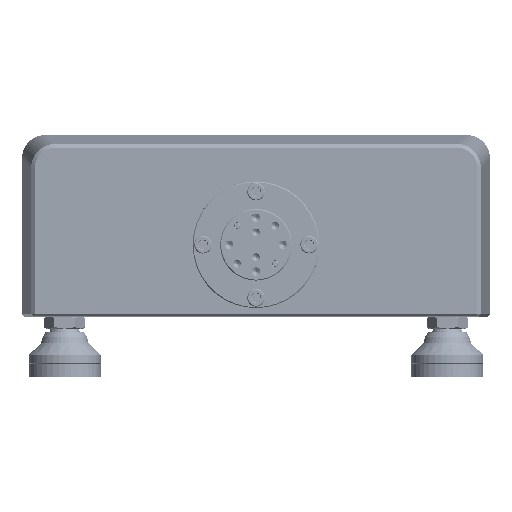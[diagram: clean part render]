
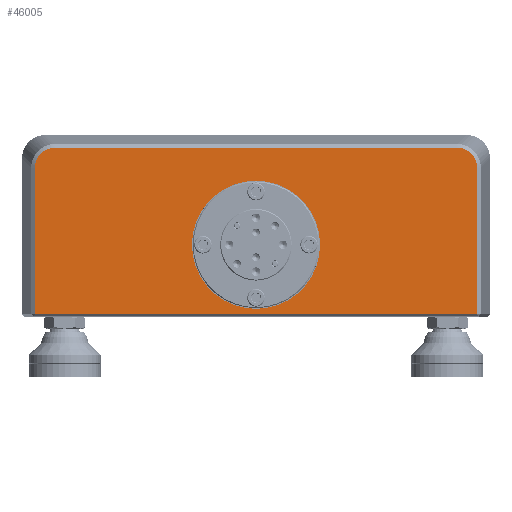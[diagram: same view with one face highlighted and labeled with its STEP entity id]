
A CAD part, top view. The second image highlights one B-rep face of the part: STEP entity #46005.
In plain terms, the highlighted planar face has unit normal (0, 0, 1).
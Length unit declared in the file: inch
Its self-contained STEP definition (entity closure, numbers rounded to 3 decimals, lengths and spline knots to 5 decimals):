
#4503 = DIRECTION ( 'NONE',  ( 0., 0., 1. ) ) ;
#8013 = AXIS2_PLACEMENT_3D ( 'NONE', #221229, #202075, #22135 ) ;
#8677 = CARTESIAN_POINT ( 'NONE',  ( -2.77428, 0.11393, 9.26704 ) ) ;
#10829 = LINE ( 'NONE', #166773, #252271 ) ;
#12137 = CARTESIAN_POINT ( 'NONE',  ( -2.73256, 1.76878, 9.26704 ) ) ;
#12933 = CARTESIAN_POINT ( 'NONE',  ( 1.69644, 1.84357, 9.26704 ) ) ;
#13464 = EDGE_CURVE ( 'NONE', #25158, #15360, #41448, .T. ) ;
#15360 = VERTEX_POINT ( 'NONE', #81554 ) ;
#22135 = DIRECTION ( 'NONE',  ( -1., 0., 0. ) ) ;
#25158 = VERTEX_POINT ( 'NONE', #8677 ) ;
#26617 = ORIENTED_EDGE ( 'NONE', *, *, #144471, .T. ) ;
#27305 = DIRECTION ( 'NONE',  ( 1., 0., 0. ) ) ;
#29463 = VERTEX_POINT ( 'NONE', #31998 ) ;
#29752 = DIRECTION ( 'NONE',  ( 0., 1., 0. ) ) ;
#31998 = CARTESIAN_POINT ( 'NONE',  ( 1.85037, 1.64008, 9.26704 ) ) ;
#32144 = CARTESIAN_POINT ( 'NONE',  ( -2.77428, 1.64008, 9.26704 ) ) ;
#32560 = CARTESIAN_POINT ( 'NONE',  ( -2.76885, 1.69507, 9.26704 ) ) ;
#32874 = LINE ( 'NONE', #229505, #82377 ) ;
#37849 = VERTEX_POINT ( 'NONE', #134392 ) ;
#41448 = LINE ( 'NONE', #120835, #95026 ) ;
#43694 = CARTESIAN_POINT ( 'NONE',  ( 1.82414, 1.74555, 9.26704 ) ) ;
#46005 = ADVANCED_FACE ( 'NONE', ( #230353, #232793 ), #54173, .F. ) ;
#46467 = CARTESIAN_POINT ( 'NONE',  ( -0.46195, 0.83393, 9.26704 ) ) ;
#46709 = CARTESIAN_POINT ( 'NONE',  ( -2.77428, 1.66763, 9.26704 ) ) ;
#48962 = EDGE_CURVE ( 'NONE', #204893, #25158, #32874, .T. ) ;
#54173 = PLANE ( 'NONE',  #8013 ) ;
#61631 = AXIS2_PLACEMENT_3D ( 'NONE', #46467, #202251, #27305 ) ;
#61691 = EDGE_LOOP ( 'NONE', ( #101535, #154904, #186161, #190270, #133851, #26617 ) ) ;
#63635 = CARTESIAN_POINT ( 'NONE',  ( -2.56535, 1.849, 9.26704 ) ) ;
#64047 = ORIENTED_EDGE ( 'NONE', *, *, #159765, .F. ) ;
#68004 = B_SPLINE_CURVE_WITH_KNOTS ( 'NONE', 3,
 ( #237838, #140982, #218659, #43694, #121848, #110197, #87220, #12933, #222447, #163843 ),
 .UNSPECIFIED., .F., .F.,
 ( 4, 2, 2, 2, 4 ),
 ( 0., 0.25, 0.5, 0.75, 1. ),
 .UNSPECIFIED. ) ;
#69719 = CARTESIAN_POINT ( 'NONE',  ( -2.62034, 1.84357, 9.26704 ) ) ;
#81554 = CARTESIAN_POINT ( 'NONE',  ( 1.85037, 0.11393, 9.26704 ) ) ;
#82377 = VECTOR ( 'NONE', #132642, 39.37008 ) ;
#83984 = CARTESIAN_POINT ( 'NONE',  ( 1.64145, 1.849, 9.26704 ) ) ;
#85185 = CARTESIAN_POINT ( 'NONE',  ( -2.59284, 1.84901, 9.26704 ) ) ;
#85959 = EDGE_LOOP ( 'NONE', ( #230007, #64047 ) ) ;
#87220 = CARTESIAN_POINT ( 'NONE',  ( 1.74691, 1.82277, 9.26704 ) ) ;
#95026 = VECTOR ( 'NONE', #141223, 39.37008 ) ;
#98138 = B_SPLINE_CURVE_WITH_KNOTS ( 'NONE', 3,
 ( #244624, #85185, #69719, #225429, #143933, #12137, #207543, #32560, #46709, #124810 ),
 .UNSPECIFIED., .F., .F.,
 ( 4, 2, 2, 2, 4 ),
 ( 0., 0.25, 0.5, 0.75, 1. ),
 .UNSPECIFIED. ) ;
#101347 = VERTEX_POINT ( 'NONE', #83984 ) ;
#101535 = ORIENTED_EDGE ( 'NONE', *, *, #127664, .T. ) ;
#102287 = AXIS2_PLACEMENT_3D ( 'NONE', #199948, #4503, #141362 ) ;
#104293 = DIRECTION ( 'NONE',  ( -1., 0., 0. ) ) ;
#110197 = CARTESIAN_POINT ( 'NONE',  ( 1.77015, 1.80729, 9.26704 ) ) ;
#120835 = CARTESIAN_POINT ( 'NONE',  ( -0.46195, 0.11393, 9.26704 ) ) ;
#121848 = CARTESIAN_POINT ( 'NONE',  ( 1.80865, 1.76878, 9.26704 ) ) ;
#123486 = EDGE_CURVE ( 'NONE', #15360, #29463, #184356, .T. ) ;
#124810 = CARTESIAN_POINT ( 'NONE',  ( -2.77428, 1.64008, 9.26704 ) ) ;
#126612 = CARTESIAN_POINT ( 'NONE',  ( 0.20805, 0.83393, 9.26704 ) ) ;
#127664 = EDGE_CURVE ( 'NONE', #145523, #204893, #98138, .T. ) ;
#132642 = DIRECTION ( 'NONE',  ( 0., -1., 0. ) ) ;
#133851 = ORIENTED_EDGE ( 'NONE', *, *, #162657, .T. ) ;
#134392 = CARTESIAN_POINT ( 'NONE',  ( -1.13195, 0.83393, 9.26704 ) ) ;
#140982 = CARTESIAN_POINT ( 'NONE',  ( 1.85037, 1.66757, 9.26704 ) ) ;
#141223 = DIRECTION ( 'NONE',  ( 1., 0., 0. ) ) ;
#141362 = DIRECTION ( 'NONE',  ( 1., 0., 0. ) ) ;
#143933 = CARTESIAN_POINT ( 'NONE',  ( -2.69405, 1.80728, 9.26704 ) ) ;
#144471 = EDGE_CURVE ( 'NONE', #101347, #145523, #10829, .T. ) ;
#145523 = VERTEX_POINT ( 'NONE', #63635 ) ;
#154904 = ORIENTED_EDGE ( 'NONE', *, *, #48962, .T. ) ;
#159765 = EDGE_CURVE ( 'NONE', #37849, #164756, #240671, .T. ) ;
#161101 = EDGE_CURVE ( 'NONE', #164756, #37849, #200222, .T. ) ;
#162657 = EDGE_CURVE ( 'NONE', #29463, #101347, #68004, .T. ) ;
#163843 = CARTESIAN_POINT ( 'NONE',  ( 1.64145, 1.849, 9.26704 ) ) ;
#164756 = VERTEX_POINT ( 'NONE', #126612 ) ;
#165251 = CARTESIAN_POINT ( 'NONE',  ( 1.85037, 1.03393, 9.26704 ) ) ;
#166773 = CARTESIAN_POINT ( 'NONE',  ( -0.46195, 1.849, 9.26704 ) ) ;
#184356 = LINE ( 'NONE', #165251, #198727 ) ;
#186161 = ORIENTED_EDGE ( 'NONE', *, *, #13464, .T. ) ;
#190270 = ORIENTED_EDGE ( 'NONE', *, *, #123486, .T. ) ;
#198727 = VECTOR ( 'NONE', #29752, 39.37008 ) ;
#199948 = CARTESIAN_POINT ( 'NONE',  ( -0.46195, 0.83393, 9.26704 ) ) ;
#200222 = CIRCLE ( 'NONE', #61631, 0.67 ) ;
#202075 = DIRECTION ( 'NONE',  ( 0., 0., -1. ) ) ;
#202251 = DIRECTION ( 'NONE',  ( 0., 0., 1. ) ) ;
#204893 = VERTEX_POINT ( 'NONE', #32144 ) ;
#207543 = CARTESIAN_POINT ( 'NONE',  ( -2.74804, 1.74554, 9.26704 ) ) ;
#218659 = CARTESIAN_POINT ( 'NONE',  ( 1.84494, 1.69507, 9.26704 ) ) ;
#221229 = CARTESIAN_POINT ( 'NONE',  ( -0.46195, 1.03393, 9.26704 ) ) ;
#222447 = CARTESIAN_POINT ( 'NONE',  ( 1.669, 1.84901, 9.26704 ) ) ;
#225429 = CARTESIAN_POINT ( 'NONE',  ( -2.67082, 1.82277, 9.26704 ) ) ;
#229505 = CARTESIAN_POINT ( 'NONE',  ( -2.77428, 1.03393, 9.26704 ) ) ;
#230007 = ORIENTED_EDGE ( 'NONE', *, *, #161101, .F. ) ;
#230353 = FACE_OUTER_BOUND ( 'NONE', #61691, .T. ) ;
#232793 = FACE_BOUND ( 'NONE', #85959, .T. ) ;
#237838 = CARTESIAN_POINT ( 'NONE',  ( 1.85037, 1.64008, 9.26704 ) ) ;
#240671 = CIRCLE ( 'NONE', #102287, 0.67 ) ;
#244624 = CARTESIAN_POINT ( 'NONE',  ( -2.56535, 1.849, 9.26704 ) ) ;
#252271 = VECTOR ( 'NONE', #104293, 39.37008 ) ;
